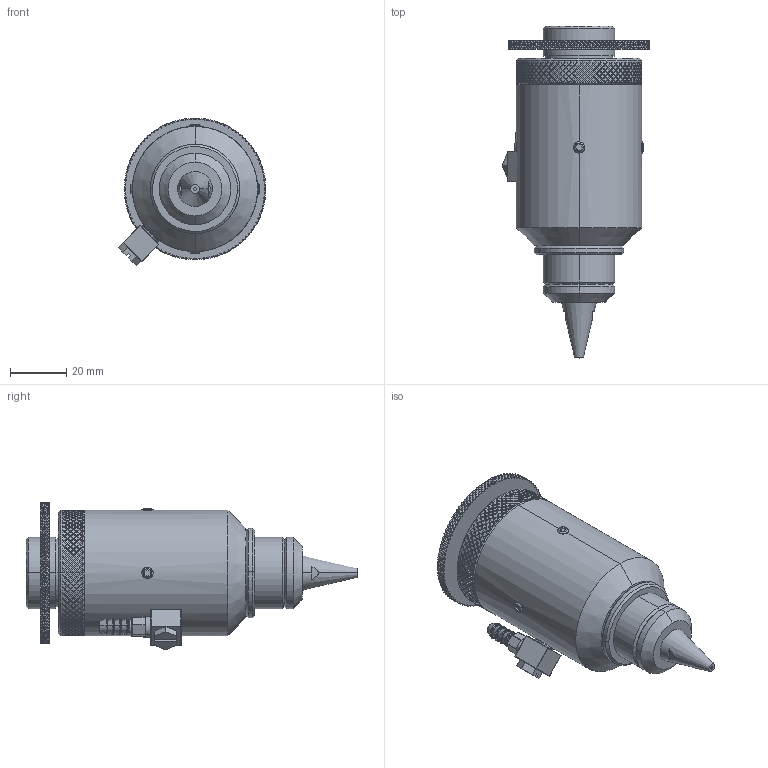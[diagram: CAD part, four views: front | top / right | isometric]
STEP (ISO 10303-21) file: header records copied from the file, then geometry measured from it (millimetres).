
FILE_DESCRIPTION (( 'STEP AP214' ), '1' );
FILE_NAME ('PHA-19-XX-075-LB.STEP', '2016-05-24T13:38:21', ( '' ), ( '' ), 'SwSTEP 2.0', 'SolidWorks 2016', '' );
FILE_SCHEMA (( 'AUTOMOTIVE_DESIGN' ));
Length unit declared in the file: inch
Products named in the file (1): PHA-19-XX-075-LB
Bounding box: 52.43 x 117.85 x 52.45 mm (x, y, z)
Volume: 116274.9 mm3; surface area: 21864 mm2
Topology: 2 solids, 2 shells, 5604 faces, 14117 edges, 8521 vertices
Faces by surface type: plane 4523, cylinder 985, cone 42, torus 34, sphere 20
Entity records: 234964 total; most frequent: CARTESIAN_POINT 40370, ORIENTED_EDGE 28194, DIRECTION 21934, EDGE_CURVE 14097, VECTOR 9648, LINE 9648, VERTEX_POINT 8521, AXIS2_PLACEMENT_3D 6143
